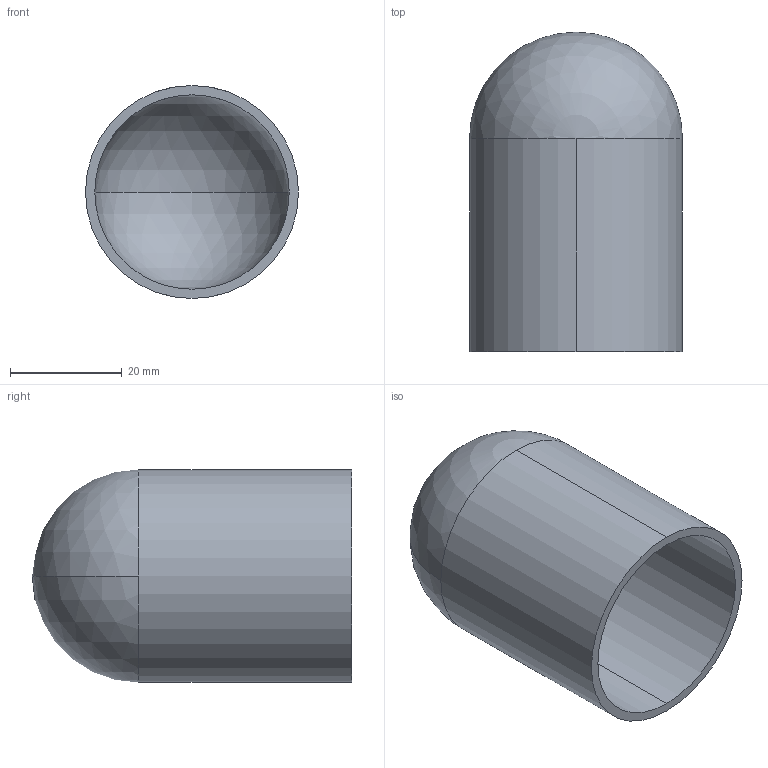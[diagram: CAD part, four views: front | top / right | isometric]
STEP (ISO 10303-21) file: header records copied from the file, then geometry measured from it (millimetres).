
FILE_DESCRIPTION (( 'STEP AP214' ), '1' );
FILE_NAME ('TE16W6L1.5-...STEP', '2016-06-01T13:57:36', ( 'eran' ), ( '' ), 'SwSTEP 2.0', 'SolidWorks 2016', '' );
FILE_SCHEMA (( 'AUTOMOTIVE_DESIGN' ));
Length unit declared in the file: millimetre
Products named in the file (1): TE16W6L1.5-..
Bounding box: 38.1 x 57.15 x 38.1 mm (x, y, z)
Volume: 10644.6 mm3; surface area: 13097.2 mm2
Topology: 1 solids, 1 shells, 9 faces, 24 edges, 14 vertices
Faces by surface type: cylinder 4, sphere 4, plane 1
Entity records: 300 total; most frequent: DIRECTION 56, CARTESIAN_POINT 44, ORIENTED_EDGE 40, AXIS2_PLACEMENT_3D 26, EDGE_CURVE 20, CIRCLE 16, VERTEX_POINT 14, EDGE_LOOP 10
